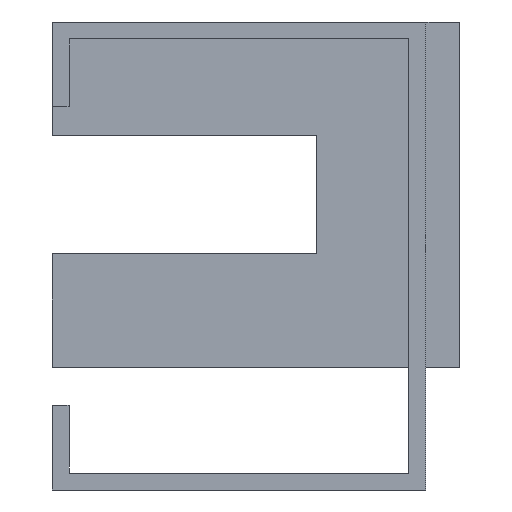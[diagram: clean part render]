
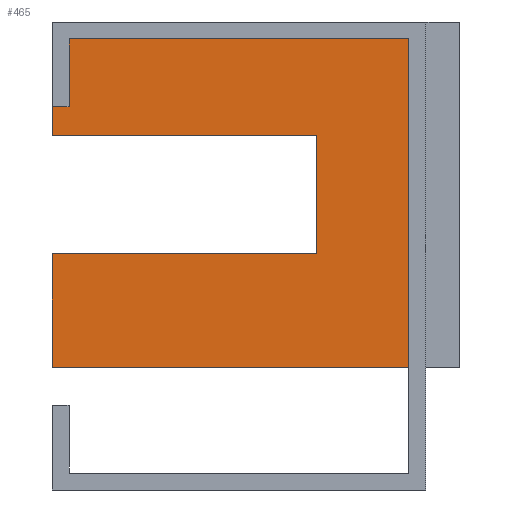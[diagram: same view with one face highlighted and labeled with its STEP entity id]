
A CAD part, left-side view. The second image highlights one B-rep face of the part: STEP entity #465.
In plain terms, the highlighted planar face has unit normal (-1, 0, 0).
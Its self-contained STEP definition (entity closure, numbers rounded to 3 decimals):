
#12 = DIRECTION ( 'NONE',  ( 0., 0., 1. ) ) ;
#16 = VERTEX_POINT ( 'NONE', #163 ) ;
#19 = LINE ( 'NONE', #696, #364 ) ;
#40 = EDGE_CURVE ( 'NONE', #1249, #1269, #55, .T. ) ;
#55 = LINE ( 'NONE', #602, #1326 ) ;
#70 = VECTOR ( 'NONE', #1367, 1000. ) ;
#75 = ORIENTED_EDGE ( 'NONE', *, *, #373, .T. ) ;
#142 = VECTOR ( 'NONE', #12, 1000. ) ;
#163 = CARTESIAN_POINT ( 'NONE',  ( -17.2, -7.8, 0.2 ) ) ;
#209 = DIRECTION ( 'NONE',  ( 1., 0., 0. ) ) ;
#222 = PLANE ( 'NONE',  #227 ) ;
#227 = AXIS2_PLACEMENT_3D ( 'NONE', #314, #209, #649 ) ;
#236 = VERTEX_POINT ( 'NONE', #1008 ) ;
#291 = ORIENTED_EDGE ( 'NONE', *, *, #914, .T. ) ;
#314 = CARTESIAN_POINT ( 'NONE',  ( -17.2, -18.1, -10.5 ) ) ;
#318 = VECTOR ( 'NONE', #1032, 1000. ) ;
#325 = CARTESIAN_POINT ( 'NONE',  ( -17.2, -16.5, -10.5 ) ) ;
#329 = LINE ( 'NONE', #761, #764 ) ;
#347 = LINE ( 'NONE', #1103, #1153 ) ;
#358 = ORIENTED_EDGE ( 'NONE', *, *, #673, .F. ) ;
#364 = VECTOR ( 'NONE', #906, 1000. ) ;
#373 = EDGE_CURVE ( 'NONE', #236, #863, #632, .T. ) ;
#441 = DIRECTION ( 'NONE',  ( 0., 0., 1. ) ) ;
#451 = CARTESIAN_POINT ( 'NONE',  ( -17.2, 17.2, 11.4 ) ) ;
#465 = ADVANCED_FACE ( 'NONE', ( #774 ), #222, .F. ) ;
#487 = LINE ( 'NONE', #625, #70 ) ;
#504 = EDGE_CURVE ( 'NONE', #1279, #1249, #522, .T. ) ;
#522 = LINE ( 'NONE', #1293, #1035 ) ;
#529 = DIRECTION ( 'NONE',  ( 0., -1., 0. ) ) ;
#554 = CARTESIAN_POINT ( 'NONE',  ( -17.2, 17.2, 22.1 ) ) ;
#581 = ORIENTED_EDGE ( 'NONE', *, *, #504, .F. ) ;
#602 = CARTESIAN_POINT ( 'NONE',  ( -17.2, 17.2, -10.5 ) ) ;
#625 = CARTESIAN_POINT ( 'NONE',  ( -17.2, 17.2, 11.4 ) ) ;
#627 = VERTEX_POINT ( 'NONE', #893 ) ;
#632 = LINE ( 'NONE', #838, #318 ) ;
#633 = ORIENTED_EDGE ( 'NONE', *, *, #40, .F. ) ;
#649 = DIRECTION ( 'NONE',  ( 0., 0., -1. ) ) ;
#654 = LINE ( 'NONE', #857, #142 ) ;
#673 = EDGE_CURVE ( 'NONE', #1033, #863, #19, .T. ) ;
#696 = CARTESIAN_POINT ( 'NONE',  ( -17.2, 17.2, -10.5 ) ) ;
#745 = EDGE_CURVE ( 'NONE', #627, #1033, #487, .T. ) ;
#761 = CARTESIAN_POINT ( 'NONE',  ( -17.2, 17.2, 0.2 ) ) ;
#764 = VECTOR ( 'NONE', #529, 1000. ) ;
#774 = FACE_OUTER_BOUND ( 'NONE', #1263, .T. ) ;
#838 = CARTESIAN_POINT ( 'NONE',  ( -17.2, -18.1, 22.1 ) ) ;
#857 = CARTESIAN_POINT ( 'NONE',  ( -17.2, -16.5, 22.1 ) ) ;
#861 = EDGE_CURVE ( 'NONE', #1269, #16, #329, .T. ) ;
#863 = VERTEX_POINT ( 'NONE', #554 ) ;
#893 = CARTESIAN_POINT ( 'NONE',  ( -17.2, -7.8, 11.4 ) ) ;
#906 = DIRECTION ( 'NONE',  ( 0., 0., 1. ) ) ;
#914 = EDGE_CURVE ( 'NONE', #1279, #236, #654, .T. ) ;
#976 = CARTESIAN_POINT ( 'NONE',  ( -17.2, 17.2, 0.2 ) ) ;
#981 = DIRECTION ( 'NONE',  ( 0., 1., 0. ) ) ;
#994 = ORIENTED_EDGE ( 'NONE', *, *, #861, .F. ) ;
#1008 = CARTESIAN_POINT ( 'NONE',  ( -17.2, -16.5, 22.1 ) ) ;
#1032 = DIRECTION ( 'NONE',  ( 0., 1., 0. ) ) ;
#1033 = VERTEX_POINT ( 'NONE', #451 ) ;
#1035 = VECTOR ( 'NONE', #981, 1000. ) ;
#1097 = CARTESIAN_POINT ( 'NONE',  ( -17.2, 17.2, -10.5 ) ) ;
#1103 = CARTESIAN_POINT ( 'NONE',  ( -17.2, -7.8, 0.2 ) ) ;
#1105 = DIRECTION ( 'NONE',  ( 0., 0., 1. ) ) ;
#1153 = VECTOR ( 'NONE', #441, 1000. ) ;
#1249 = VERTEX_POINT ( 'NONE', #1097 ) ;
#1263 = EDGE_LOOP ( 'NONE', ( #1321, #994, #633, #581, #291, #75, #358, #1348 ) ) ;
#1269 = VERTEX_POINT ( 'NONE', #976 ) ;
#1279 = VERTEX_POINT ( 'NONE', #325 ) ;
#1281 = EDGE_CURVE ( 'NONE', #16, #627, #347, .T. ) ;
#1293 = CARTESIAN_POINT ( 'NONE',  ( -17.2, -18.1, -10.5 ) ) ;
#1321 = ORIENTED_EDGE ( 'NONE', *, *, #1281, .F. ) ;
#1326 = VECTOR ( 'NONE', #1105, 1000. ) ;
#1348 = ORIENTED_EDGE ( 'NONE', *, *, #745, .F. ) ;
#1367 = DIRECTION ( 'NONE',  ( 0., 1., 0. ) ) ;
